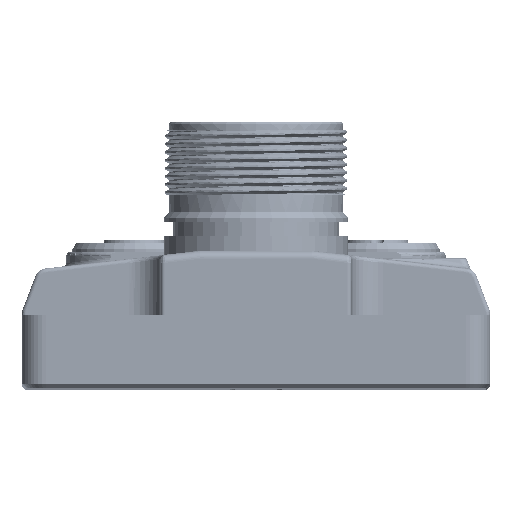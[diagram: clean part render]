
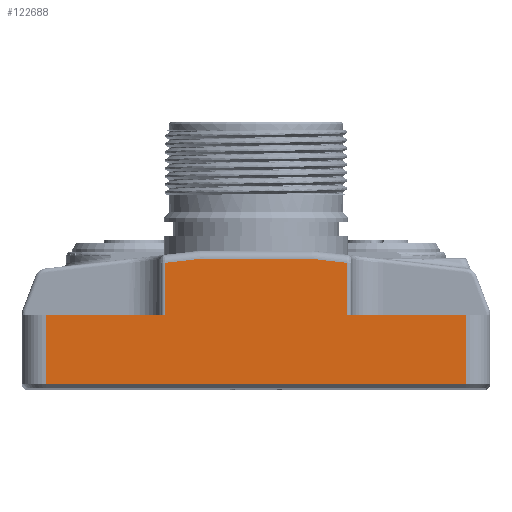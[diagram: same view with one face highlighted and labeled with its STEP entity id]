
A CAD part, top view. The second image highlights one B-rep face of the part: STEP entity #122688.
In plain terms, the highlighted planar face has unit normal (0, 0, 1).
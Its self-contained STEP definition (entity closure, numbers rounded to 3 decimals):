
#23222=DIRECTION('',(0.,1.,0.));
#23223=VECTOR('',#23222,8.5);
#23224=CARTESIAN_POINT('',(-26.,0.5,
153.));
#23225=LINE('',#23224,#23223);
#23230=DIRECTION('',(-0.994,0.113,0.));
#23231=VECTOR('',#23230,4.385);
#23232=CARTESIAN_POINT('',(11.3,15.505,153.));
#23233=LINE('',#23232,#23231);
#23234=DIRECTION('',(-0.994,-0.113,0.));
#23235=VECTOR('',#23234,4.385);
#23236=CARTESIAN_POINT('',(-6.943,16.,
153.));
#23237=LINE('',#23236,#23235);
#23238=DIRECTION('',(1.,0.,0.));
#23239=VECTOR('',#23238,13.887);
#23240=CARTESIAN_POINT('',(-6.943,16.,
153.));
#23241=LINE('',#23240,#23239);
#23266=CARTESIAN_POINT('',(6.943,16.,153.));
#41958=CARTESIAN_POINT('',(-6.943,16.,
153.));
#41981=DIRECTION('',(0.,1.,0.));
#41982=VECTOR('',#41981,6.505);
#41983=CARTESIAN_POINT('',(-11.3,9.,153.));
#41984=LINE('',#41983,#41982);
#42000=DIRECTION('',(1.,0.,0.));
#42001=VECTOR('',#42000,14.7);
#42002=CARTESIAN_POINT('',(-26.,9.,153.));
#42003=LINE('',#42002,#42001);
#42164=DIRECTION('',(-1.,0.,0.));
#42165=VECTOR('',#42164,52.);
#42166=CARTESIAN_POINT('',(26.,0.5,153.));
#42167=LINE('',#42166,#42165);
#42185=DIRECTION('',(0.,-1.,0.));
#42186=VECTOR('',#42185,8.5);
#42187=CARTESIAN_POINT('',(26.,9.,153.));
#42188=LINE('',#42187,#42186);
#42368=DIRECTION('',(1.,0.,0.));
#42369=VECTOR('',#42368,14.7);
#42370=CARTESIAN_POINT('',(11.3,9.,153.));
#42371=LINE('',#42370,#42369);
#42392=DIRECTION('',(0.,-1.,0.));
#42393=VECTOR('',#42392,6.505);
#42394=CARTESIAN_POINT('',(11.3,15.505,153.));
#42395=LINE('',#42394,#42393);
#67803=CARTESIAN_POINT('',(-11.3,15.505,153.));
#67805=VERTEX_POINT('',#67803);
#69791=CARTESIAN_POINT('',(11.3,9.,153.));
#69792=CARTESIAN_POINT('',(26.,9.,153.));
#69793=VERTEX_POINT('',#69791);
#69794=VERTEX_POINT('',#69792);
#70944=CARTESIAN_POINT('',(11.3,15.505,153.));
#70945=VERTEX_POINT('',#70944);
#71606=CARTESIAN_POINT('',(-26.,0.5,
153.));
#71607=CARTESIAN_POINT('',(-26.,9.,153.));
#71608=VERTEX_POINT('',#71606);
#71609=VERTEX_POINT('',#71607);
#74835=CARTESIAN_POINT('',(26.,0.5,153.));
#74836=VERTEX_POINT('',#74835);
#77049=VERTEX_POINT('',#41958);
#79243=VERTEX_POINT('',#23266);
#79529=CARTESIAN_POINT('',(-11.3,9.,153.));
#79530=VERTEX_POINT('',#79529);
#122662=CARTESIAN_POINT('',(-26.,0.5,153.));
#122663=DIRECTION('',(0.,0.,1.));
#122664=DIRECTION('',(1.,0.,0.));
#122665=AXIS2_PLACEMENT_3D('',#122662,#122663,#122664);
#122666=PLANE('',#122665);
#122668=ORIENTED_EDGE('',*,*,#122667,.T.);
#122670=ORIENTED_EDGE('',*,*,#122669,.F.);
#122672=ORIENTED_EDGE('',*,*,#122671,.T.);
#122674=ORIENTED_EDGE('',*,*,#122673,.T.);
#122676=ORIENTED_EDGE('',*,*,#122675,.T.);
#122678=ORIENTED_EDGE('',*,*,#122677,.T.);
#122679=ORIENTED_EDGE('',*,*,#122652,.T.);
#122681=ORIENTED_EDGE('',*,*,#122680,.T.);
#122683=ORIENTED_EDGE('',*,*,#122682,.T.);
#122685=ORIENTED_EDGE('',*,*,#122684,.F.);
#122686=EDGE_LOOP('',(#122668,#122670,#122672,#122674,#122676,#122678,#122679,
#122681,#122683,#122685));
#122687=FACE_OUTER_BOUND('',#122686,.F.);
#122688=ADVANCED_FACE('',(#122687),#122666,.T.);
#122652=EDGE_CURVE('',#71608,#71609,#23225,.T.);
#122667=EDGE_CURVE('',#77049,#79243,#23241,.T.);
#122669=EDGE_CURVE('',#70945,#79243,#23233,.T.);
#122671=EDGE_CURVE('',#70945,#69793,#42395,.T.);
#122673=EDGE_CURVE('',#69793,#69794,#42371,.T.);
#122675=EDGE_CURVE('',#69794,#74836,#42188,.T.);
#122677=EDGE_CURVE('',#74836,#71608,#42167,.T.);
#122680=EDGE_CURVE('',#71609,#79530,#42003,.T.);
#122682=EDGE_CURVE('',#79530,#67805,#41984,.T.);
#122684=EDGE_CURVE('',#77049,#67805,#23237,.T.);
